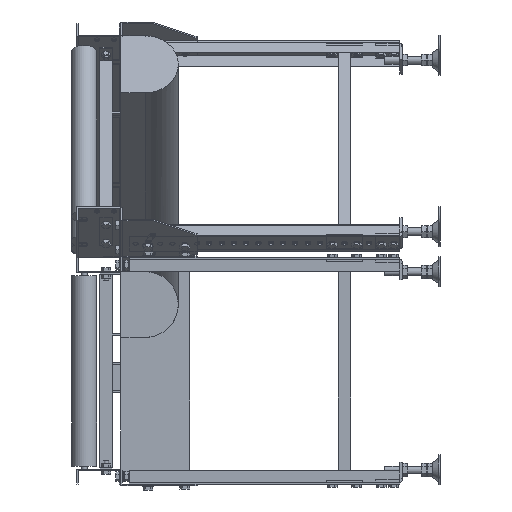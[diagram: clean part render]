
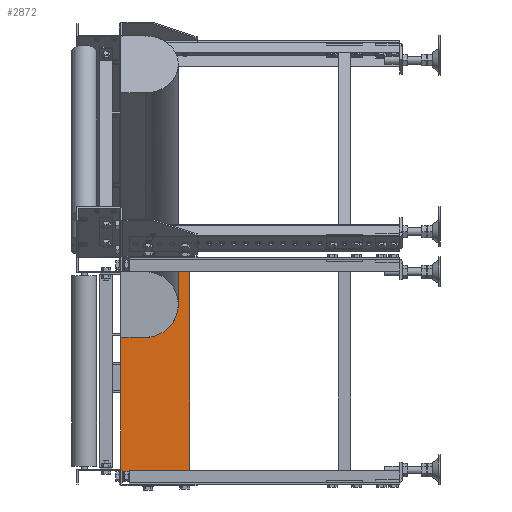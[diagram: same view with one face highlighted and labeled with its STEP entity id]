
A CAD part, left-side view. The second image highlights one B-rep face of the part: STEP entity #2872.
In plain terms, the highlighted planar face has unit normal (-1, 0, 0).
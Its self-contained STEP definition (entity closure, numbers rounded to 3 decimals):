
#2872=ADVANCED_FACE('',(#12622),#12621,.F.);
#12621=PLANE('',#50523);
#12622=FACE_OUTER_BOUND('',#50524,.T.);
#50520=CARTESIAN_POINT('',(-402.5,-250.,220.));
#50521=DIRECTION('',(1.,0.,0.));
#50522=DIRECTION('',(0.,0.,-1.));
#50523=AXIS2_PLACEMENT_3D('',#50520,#50521,#50522);
#50524=EDGE_LOOP('',(#72344,#72345,#72346,#72347,#72348,#72349,#72350,#72351,#72352));
#72344=ORIENTED_EDGE('',*,*,#91477,.F.);
#72345=ORIENTED_EDGE('',*,*,#91479,.F.);
#72346=ORIENTED_EDGE('',*,*,#91480,.F.);
#72347=ORIENTED_EDGE('',*,*,#90587,.T.);
#72348=ORIENTED_EDGE('',*,*,#89418,.T.);
#72349=ORIENTED_EDGE('',*,*,#91504,.F.);
#72350=ORIENTED_EDGE('',*,*,#91505,.F.);
#72351=ORIENTED_EDGE('',*,*,#91501,.T.);
#72352=ORIENTED_EDGE('',*,*,#89474,.T.);
#89418=EDGE_CURVE('',#100106,#100099,#100107,.T.);
#89474=EDGE_CURVE('',#100428,#100491,#100498,.T.);
#90587=EDGE_CURVE('',#107951,#100106,#107952,.T.);
#91477=EDGE_CURVE('',#113860,#100491,#113867,.T.);
#91479=EDGE_CURVE('',#113873,#113860,#113880,.T.);
#91480=EDGE_CURVE('',#107951,#113873,#113886,.T.);
#91501=EDGE_CURVE('',#114022,#100428,#114023,.T.);
#91504=EDGE_CURVE('',#114042,#100099,#114043,.T.);
#91505=EDGE_CURVE('',#114022,#114042,#114049,.T.);
#100099=VERTEX_POINT('',#170446);
#100106=VERTEX_POINT('',#170450);
#100107=LINE('',#170451,#170452);
#100428=VERTEX_POINT('',#170674);
#100491=VERTEX_POINT('',#170712);
#100498=LINE('',#170716,#170717);
#107951=VERTEX_POINT('',#175023);
#107952=LINE('',#175024,#175025);
#113860=VERTEX_POINT('',#178407);
#113867=LINE('',#178411,#178412);
#113873=VERTEX_POINT('',#178414);
#113880=CIRCLE('',#178421,66.89);
#113886=LINE('',#178422,#178423);
#114022=VERTEX_POINT('',#178496);
#114023=LINE('',#178497,#178498);
#114042=VERTEX_POINT('',#178507);
#114043=LINE('',#178508,#178509);
#114049=LINE('',#178511,#178512);
#170446=CARTESIAN_POINT('',(-402.5,-100.,-210.));
#170450=CARTESIAN_POINT('',(-402.5,-100.,-200.));
#170451=CARTESIAN_POINT('',(-402.5,-100.,-200.));
#170452=VECTOR('',#170453,10.);
#170453=DIRECTION('',(0.,0.,-1.));
#170674=CARTESIAN_POINT('',(-402.5,-100.,210.));
#170712=CARTESIAN_POINT('',(-402.5,-100.,202.));
#170716=CARTESIAN_POINT('',(-402.5,-100.,210.));
#170717=VECTOR('',#170718,8.);
#170718=DIRECTION('',(0.,0.,-1.));
#175023=CARTESIAN_POINT('',(-402.5,-100.,68.22));
#175024=CARTESIAN_POINT('',(-402.5,-100.,68.22));
#175025=VECTOR('',#175026,268.22);
#175026=DIRECTION('',(0.,0.,-1.));
#178407=CARTESIAN_POINT('',(-402.5,-150.,202.));
#178411=CARTESIAN_POINT('',(-402.5,-150.,202.));
#178412=VECTOR('',#178413,50.);
#178413=DIRECTION('',(0.,1.,0.));
#178414=CARTESIAN_POINT('',(-402.5,-150.,68.22));
#178418=CARTESIAN_POINT('',(-402.5,-150.,135.11));
#178419=DIRECTION('',(-1.,0.,0.));
#178420=DIRECTION('',(0.,0.,1.));
#178421=AXIS2_PLACEMENT_3D('',#178418,#178419,#178420);
#178422=CARTESIAN_POINT('',(-402.5,-100.,68.22));
#178423=VECTOR('',#178424,50.);
#178424=DIRECTION('',(0.,-1.,0.));
#178496=CARTESIAN_POINT('',(-402.5,-240.,210.));
#178497=CARTESIAN_POINT('',(-402.5,-240.,210.));
#178498=VECTOR('',#178499,140.);
#178499=DIRECTION('',(0.,1.,0.));
#178507=CARTESIAN_POINT('',(-402.5,-240.,-210.));
#178508=CARTESIAN_POINT('',(-402.5,-240.,-210.));
#178509=VECTOR('',#178510,140.);
#178510=DIRECTION('',(0.,1.,0.));
#178511=CARTESIAN_POINT('',(-402.5,-240.,210.));
#178512=VECTOR('',#178513,420.);
#178513=DIRECTION('',(0.,0.,-1.));
